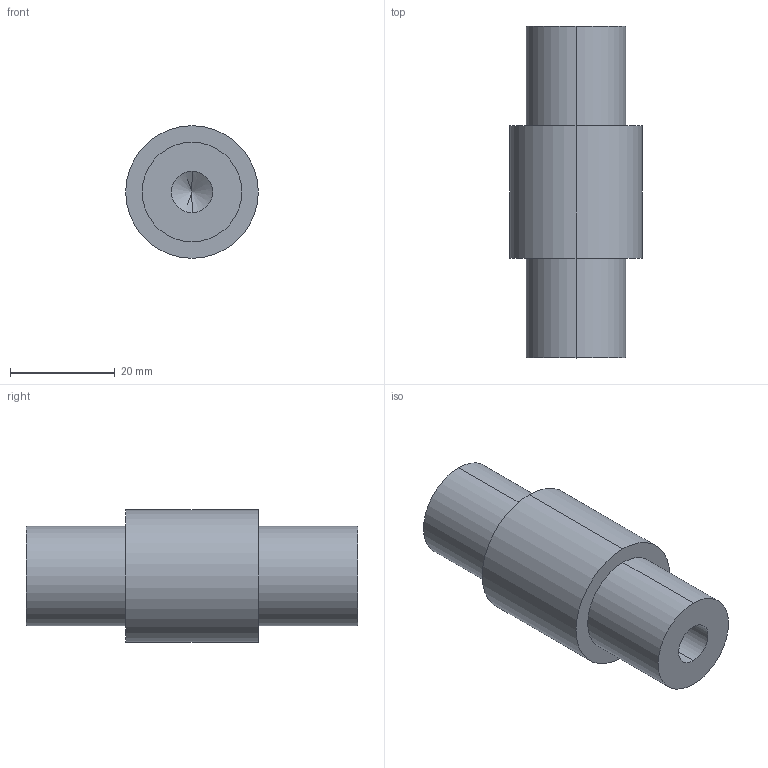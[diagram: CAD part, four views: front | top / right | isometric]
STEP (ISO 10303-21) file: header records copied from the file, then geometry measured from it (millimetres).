
FILE_DESCRIPTION (( 'STEP AP214' ), '1' );
FILE_NAME ('SS1432-1000KG-F-F.STEP', '2024-09-04T16:04:33', ( '' ), ( '' ), 'SwSTEP 2.0', 'SolidWorks 2008', '' );
FILE_SCHEMA (( 'AUTOMOTIVE_DESIGN' ));
Length unit declared in the file: inch
Products named in the file (1): SS1432-1000KG-F-F
Bounding box: 25.4 x 63.5 x 25.4 mm (x, y, z)
Volume: 21765.8 mm3; surface area: 6287 mm2
Topology: 1 solids, 1 shells, 18 faces, 38 edges, 22 vertices
Faces by surface type: cylinder 10, cone 4, plane 4
Entity records: 541 total; most frequent: DIRECTION 92, CARTESIAN_POINT 75, ORIENTED_EDGE 68, AXIS2_PLACEMENT_3D 39, EDGE_CURVE 34, VERTEX_POINT 22, EDGE_LOOP 22, CIRCLE 20
